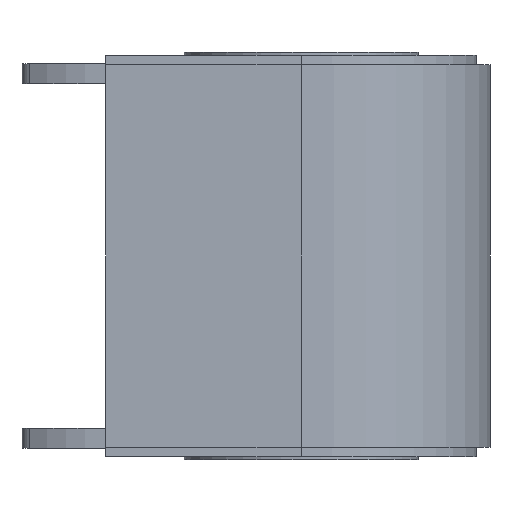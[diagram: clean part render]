
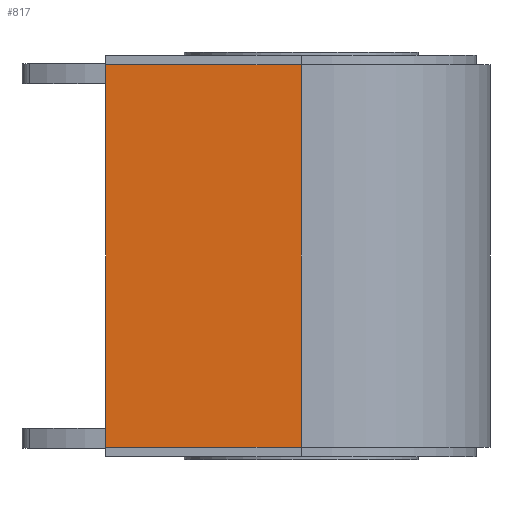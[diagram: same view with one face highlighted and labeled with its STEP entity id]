
A CAD part, front view. The second image highlights one B-rep face of the part: STEP entity #817.
In plain terms, the highlighted planar face has unit normal (0, -1, 0).
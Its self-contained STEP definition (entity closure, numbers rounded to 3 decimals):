
#19 = VECTOR ( 'NONE', #1078, 1000. ) ;
#26 = ORIENTED_EDGE ( 'NONE', *, *, #896, .F. ) ;
#107 = CARTESIAN_POINT ( 'NONE',  ( -115., -113., 57.15 ) ) ;
#143 = ORIENTED_EDGE ( 'NONE', *, *, #783, .T. ) ;
#179 = ORIENTED_EDGE ( 'NONE', *, *, #1109, .F. ) ;
#188 = LINE ( 'NONE', #643, #19 ) ;
#238 = VECTOR ( 'NONE', #1136, 1000. ) ;
#293 = CARTESIAN_POINT ( 'NONE',  ( -56.5, -113., -57.15 ) ) ;
#301 = EDGE_LOOP ( 'NONE', ( #179, #26, #143, #444 ) ) ;
#337 = CARTESIAN_POINT ( 'NONE',  ( -56.5, -113., 57.15 ) ) ;
#394 = PLANE ( 'NONE',  #680 ) ;
#430 = DIRECTION ( 'NONE',  ( -1., 0., 0. ) ) ;
#435 = CARTESIAN_POINT ( 'NONE',  ( -115., -113., -57.15 ) ) ;
#444 = ORIENTED_EDGE ( 'NONE', *, *, #1166, .T. ) ;
#487 = DIRECTION ( 'NONE',  ( 0., -1., 0. ) ) ;
#493 = VERTEX_POINT ( 'NONE', #435 ) ;
#498 = DIRECTION ( 'NONE',  ( -1., 0., 0. ) ) ;
#591 = CARTESIAN_POINT ( 'NONE',  ( -56.5, -113., 57.15 ) ) ;
#643 = CARTESIAN_POINT ( 'NONE',  ( -115., -113., -57.15 ) ) ;
#680 = AXIS2_PLACEMENT_3D ( 'NONE', #824, #487, #1229 ) ;
#738 = LINE ( 'NONE', #1237, #238 ) ;
#755 = LINE ( 'NONE', #293, #972 ) ;
#783 = EDGE_CURVE ( 'NONE', #863, #1340, #738, .T. ) ;
#817 = ADVANCED_FACE ( 'NONE', ( #1004 ), #394, .T. ) ;
#824 = CARTESIAN_POINT ( 'NONE',  ( -56.5, -113., -57.15 ) ) ;
#863 = VERTEX_POINT ( 'NONE', #934 ) ;
#896 = EDGE_CURVE ( 'NONE', #863, #493, #755, .T. ) ;
#934 = CARTESIAN_POINT ( 'NONE',  ( -56.5, -113., -57.15 ) ) ;
#972 = VECTOR ( 'NONE', #498, 1000. ) ;
#1004 = FACE_OUTER_BOUND ( 'NONE', #301, .T. ) ;
#1006 = VERTEX_POINT ( 'NONE', #107 ) ;
#1078 = DIRECTION ( 'NONE',  ( 0., 0., 1. ) ) ;
#1087 = VECTOR ( 'NONE', #430, 1000. ) ;
#1109 = EDGE_CURVE ( 'NONE', #493, #1006, #188, .T. ) ;
#1136 = DIRECTION ( 'NONE',  ( 0., 0., 1. ) ) ;
#1149 = LINE ( 'NONE', #337, #1087 ) ;
#1166 = EDGE_CURVE ( 'NONE', #1340, #1006, #1149, .T. ) ;
#1229 = DIRECTION ( 'NONE',  ( 1., 0., 0. ) ) ;
#1237 = CARTESIAN_POINT ( 'NONE',  ( -56.5, -113., -57.15 ) ) ;
#1340 = VERTEX_POINT ( 'NONE', #591 ) ;
